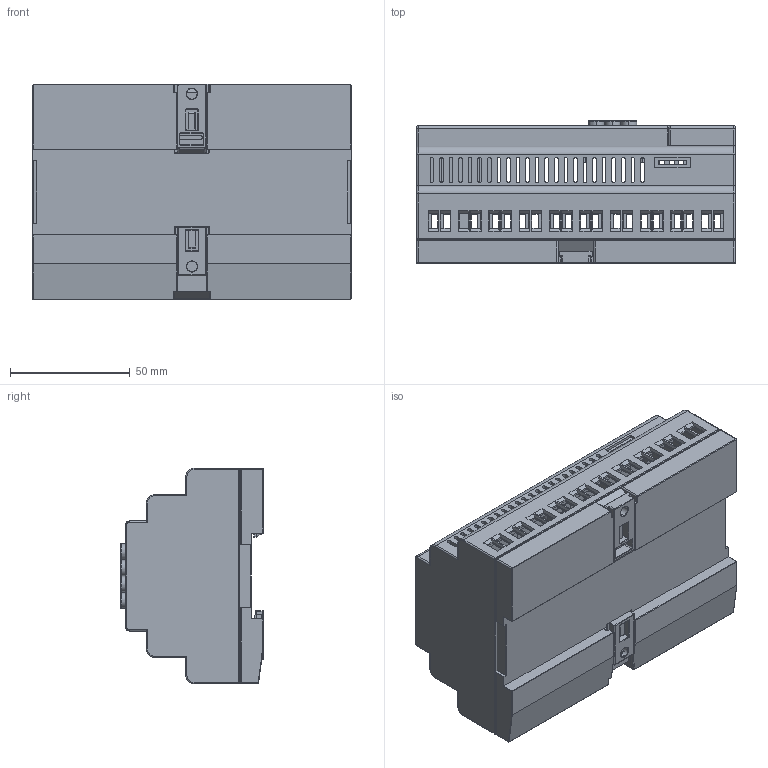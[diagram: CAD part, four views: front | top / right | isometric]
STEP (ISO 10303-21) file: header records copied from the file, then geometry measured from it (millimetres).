
FILE_DESCRIPTION (( 'STEP AP203' ), '1' );
FILE_NAME ('PR-26N Series CPU 3D.STEP', '2024-06-19T08:59:48', ( '' ), ( '' ), 'SwSTEP 2.0', 'SolidWorks 2020', '' );
FILE_SCHEMA (( 'CONFIG_CONTROL_DESIGN' ));
Length unit declared in the file: millimetre
Products named in the file (9): PR 系列长插销¤2__ú_è2__¨2; PR-26 ﾏｵﾁﾐﾏﾂｸﾇ｣ｨ23-214-2｣ｩ-2-2｡鸚-2-2_ｨｺ_-2; PR-26 新系列 按键（23-240-5）-缩小间距￡_-__D____à_ê_-__D____¨¤; PR ﾏｵﾁﾐﾍｨﾓﾃﾀｩﾕｹｿﾚｸﾇｨ､__1_ｨｲ__｡ｧ｡鐇_1_｡ｧ2__; PR 炵蹈傻脣种足2__迆“_2__“2; HR911105A 厙釐諳__迆__“2; PR-26N Series CPU 3D; PR 炵蹈籵蚚芵隴え_赤__‾___“a______; PR-26 新上盖（23-214-1）修改-2023120502312050231205
Assembly tree (8 placements, depth 2):
  PR-26N Series CPU 3D
    PR-26 ﾏｵﾁﾐﾏﾂｸﾇ｣ｨ23-214-2｣ｩ-2-2｡鸚-2-2_ｨｺ_-2
    PR-26 新上盖（23-214-1）修改-2023120502312050231205
    PR 炵蹈傻脣种足2__迆“_2__“2
    PR ﾏｵﾁﾐﾍｨﾓﾃﾀｩﾕｹｿﾚｸﾇｨ､__1_ｨｲ__｡ｧ｡鐇_1_｡ｧ2__
    PR 系列长插销¤2__ú_è2__¨2
    HR911105A 厙釐諳__迆__“2
    PR 炵蹈籵蚚芵隴え_赤__‾___“a______
    PR-26 新系列 按键（23-240-5）-缩小间距￡_-__D____à_ê_-__D____¨¤
Bounding box: 133 x 59.55 x 90 mm (x, y, z)
Volume: 163725 mm3; surface area: 112932.5 mm2
Topology: 8 solids, 8 shells, 1650 faces, 4295 edges, 2655 vertices
Faces by surface type: plane 908, cylinder 535, torus 92, bspline 44, cone 36, sphere 35
Entity records: 53149 total; most frequent: CARTESIAN_POINT 11144, ORIENTED_EDGE 8520, DIRECTION 8480, EDGE_CURVE 4260, LINE 2954, VECTOR 2954, AXIS2_PLACEMENT_3D 2763, VERTEX_POINT 2655
